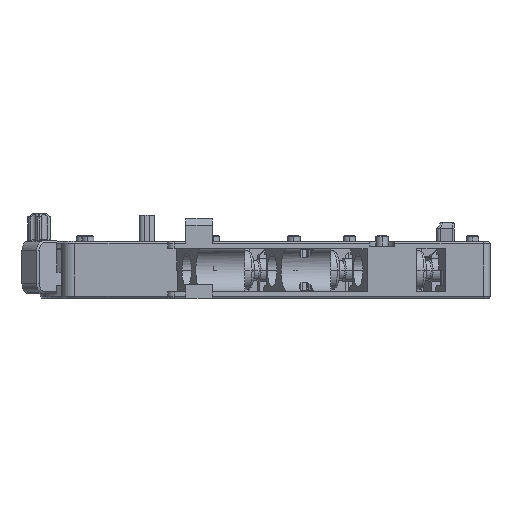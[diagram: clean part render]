
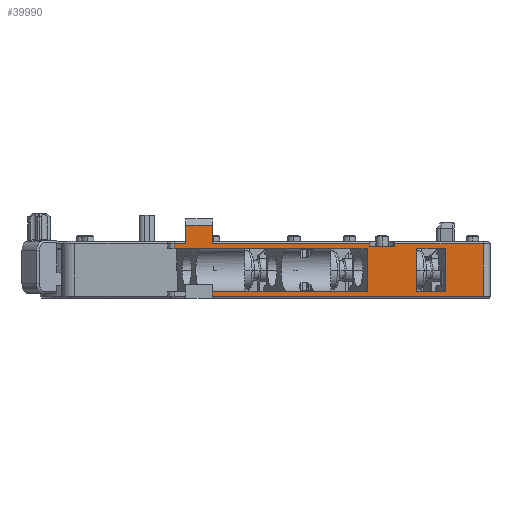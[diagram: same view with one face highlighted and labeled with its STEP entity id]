
A CAD part, left-side view. The second image highlights one B-rep face of the part: STEP entity #39990.
In plain terms, the highlighted planar face has unit normal (-1, 0, 0).
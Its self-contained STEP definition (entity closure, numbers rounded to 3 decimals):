
#649=DIRECTION('',(0.,0.,1.));
#650=VECTOR('',#649,8.05);
#651=CARTESIAN_POINT('',(-48.,-50.5,-4.));
#652=LINE('',#651,#650);
#667=DIRECTION('',(0.,0.,-1.));
#668=VECTOR('',#667,0.75);
#669=CARTESIAN_POINT('',(-48.,-3.2,4.05));
#670=LINE('',#669,#668);
#671=DIRECTION('',(0.,-1.,0.));
#672=VECTOR('',#671,1.81);
#673=CARTESIAN_POINT('',(-48.,-3.2,4.05));
#674=LINE('',#673,#672);
#675=DIRECTION('',(0.,1.,0.));
#676=VECTOR('',#675,4.);
#677=CARTESIAN_POINT('',(-48.,-9.01,6.85));
#678=LINE('',#677,#676);
#679=DIRECTION('',(0.,0.,1.));
#680=VECTOR('',#679,0.4);
#681=CARTESIAN_POINT('',(-48.,-33.1,3.65));
#682=LINE('',#681,#680);
#683=DIRECTION('',(0.,1.,0.));
#684=VECTOR('',#683,3.8);
#685=CARTESIAN_POINT('',(-48.,-36.9,3.65));
#686=LINE('',#685,#684);
#687=DIRECTION('',(0.,0.,1.));
#688=VECTOR('',#687,0.4);
#689=CARTESIAN_POINT('',(-48.,-36.9,3.65));
#690=LINE('',#689,#688);
#691=DIRECTION('',(0.,1.,0.));
#692=VECTOR('',#691,41.478);
#693=CARTESIAN_POINT('',(-48.,-50.5,-4.));
#694=LINE('',#693,#692);
#695=DIRECTION('',(0.,0.,1.));
#696=VECTOR('',#695,0.7);
#697=CARTESIAN_POINT('',(-48.,-9.023,-4.));
#698=LINE('',#697,#696);
#699=DIRECTION('',(0.,1.,0.));
#700=VECTOR('',#699,4.344);
#701=CARTESIAN_POINT('',(-48.,-44.661,-3.3));
#702=LINE('',#701,#700);
#715=DIRECTION('',(0.,0.,-1.));
#716=VECTOR('',#715,6.6);
#717=CARTESIAN_POINT('',(-48.,-32.697,3.3));
#718=LINE('',#717,#716);
#1701=DIRECTION('',(0.,1.,0.));
#1702=VECTOR('',#1701,29.497);
#1703=CARTESIAN_POINT('',(-48.,-32.697,3.3));
#1704=LINE('',#1703,#1702);
#6605=DIRECTION('',(0.,1.,0.));
#6606=VECTOR('',#6605,13.6);
#6607=CARTESIAN_POINT('',(-48.,-50.5,4.05));
#6608=LINE('',#6607,#6606);
#6622=DIRECTION('',(0.,1.,0.));
#6623=VECTOR('',#6622,24.09);
#6624=CARTESIAN_POINT('',(-48.,-33.1,4.05));
#6625=LINE('',#6624,#6623);
#6631=DIRECTION('',(0.,0.,1.));
#6632=VECTOR('',#6631,2.8);
#6633=CARTESIAN_POINT('',(-48.,-9.01,4.05));
#6634=LINE('',#6633,#6632);
#6659=DIRECTION('',(0.,0.,-1.));
#6660=VECTOR('',#6659,2.8);
#6661=CARTESIAN_POINT('',(-48.,-5.01,6.85));
#6662=LINE('',#6661,#6660);
#7798=DIRECTION('',(0.,1.,0.));
#7799=VECTOR('',#7798,23.675);
#7800=CARTESIAN_POINT('',(-48.,-32.697,-3.3));
#7801=LINE('',#7800,#7799);
#23004=DIRECTION('',(0.,0.,-1.));
#23005=VECTOR('',#23004,6.6);
#23006=CARTESIAN_POINT('',(-48.,-44.661,3.3));
#23007=LINE('',#23006,#23005);
#24710=DIRECTION('',(0.,0.,1.));
#24711=VECTOR('',#24710,6.6);
#24712=CARTESIAN_POINT('',(-48.,-40.317,-3.3));
#24713=LINE('',#24712,#24711);
#24722=DIRECTION('',(0.,1.,0.));
#24723=VECTOR('',#24722,4.344);
#24724=CARTESIAN_POINT('',(-48.,-44.661,3.3));
#24725=LINE('',#24724,#24723);
#31346=CARTESIAN_POINT('',(-48.,-44.661,-3.3));
#31347=CARTESIAN_POINT('',(-48.,-40.317,-3.3));
#31348=VERTEX_POINT('',#31346);
#31349=VERTEX_POINT('',#31347);
#31376=CARTESIAN_POINT('',(-48.,-32.697,-3.3));
#31377=CARTESIAN_POINT('',(-48.,-9.023,-3.3));
#31378=VERTEX_POINT('',#31376);
#31379=VERTEX_POINT('',#31377);
#32296=CARTESIAN_POINT('',(-48.,-9.023,-4.));
#32298=VERTEX_POINT('',#32296);
#32299=CARTESIAN_POINT('',(-48.,-50.5,-4.));
#32300=VERTEX_POINT('',#32299);
#35951=CARTESIAN_POINT('',(-48.,-32.697,3.3));
#35952=VERTEX_POINT('',#35951);
#36043=CARTESIAN_POINT('',(-48.,-44.661,3.3));
#36044=CARTESIAN_POINT('',(-48.,-40.317,3.3));
#36045=VERTEX_POINT('',#36043);
#36046=VERTEX_POINT('',#36044);
#36123=CARTESIAN_POINT('',(-48.,-5.01,6.85));
#36125=VERTEX_POINT('',#36123);
#36129=CARTESIAN_POINT('',(-48.,-9.01,6.85));
#36130=VERTEX_POINT('',#36129);
#36725=CARTESIAN_POINT('',(-48.,-9.01,4.05));
#36727=VERTEX_POINT('',#36725);
#36736=CARTESIAN_POINT('',(-48.,-5.01,4.05));
#36737=VERTEX_POINT('',#36736);
#37222=CARTESIAN_POINT('',(-48.,-3.2,3.3));
#37224=VERTEX_POINT('',#37222);
#37240=CARTESIAN_POINT('',(-48.,-50.5,4.05));
#37241=VERTEX_POINT('',#37240);
#37245=CARTESIAN_POINT('',(-48.,-3.2,4.05));
#37247=VERTEX_POINT('',#37245);
#38111=CARTESIAN_POINT('',(-48.,-36.9,3.65));
#38112=CARTESIAN_POINT('',(-48.,-33.1,3.65));
#38113=VERTEX_POINT('',#38111);
#38114=VERTEX_POINT('',#38112);
#38115=CARTESIAN_POINT('',(-48.,-33.1,4.05));
#38116=VERTEX_POINT('',#38115);
#38117=CARTESIAN_POINT('',(-48.,-36.9,4.05));
#38118=VERTEX_POINT('',#38117);
#39942=CARTESIAN_POINT('',(-48.,14.,-4.3));
#39943=DIRECTION('',(-1.,0.,0.));
#39944=DIRECTION('',(0.,-1.,0.));
#39945=AXIS2_PLACEMENT_3D('',#39942,#39943,#39944);
#39946=PLANE('',#39945);
#39948=ORIENTED_EDGE('',*,*,#39947,.F.);
#39950=ORIENTED_EDGE('',*,*,#39949,.T.);
#39952=ORIENTED_EDGE('',*,*,#39951,.F.);
#39954=ORIENTED_EDGE('',*,*,#39953,.T.);
#39956=ORIENTED_EDGE('',*,*,#39955,.F.);
#39958=ORIENTED_EDGE('',*,*,#39957,.F.);
#39960=ORIENTED_EDGE('',*,*,#39959,.F.);
#39962=ORIENTED_EDGE('',*,*,#39961,.F.);
#39964=ORIENTED_EDGE('',*,*,#39963,.F.);
#39966=ORIENTED_EDGE('',*,*,#39965,.F.);
#39968=ORIENTED_EDGE('',*,*,#39967,.T.);
#39970=ORIENTED_EDGE('',*,*,#39969,.F.);
#39971=ORIENTED_EDGE('',*,*,#39932,.F.);
#39973=ORIENTED_EDGE('',*,*,#39972,.T.);
#39975=ORIENTED_EDGE('',*,*,#39974,.T.);
#39977=ORIENTED_EDGE('',*,*,#39976,.F.);
#39978=EDGE_LOOP('',(#39948,#39950,#39952,#39954,#39956,#39958,#39960,#39962,
#39964,#39966,#39968,#39970,#39971,#39973,#39975,#39977));
#39979=FACE_OUTER_BOUND('',#39978,.F.);
#39981=ORIENTED_EDGE('',*,*,#39980,.F.);
#39983=ORIENTED_EDGE('',*,*,#39982,.T.);
#39985=ORIENTED_EDGE('',*,*,#39984,.F.);
#39987=ORIENTED_EDGE('',*,*,#39986,.F.);
#39988=EDGE_LOOP('',(#39981,#39983,#39985,#39987));
#39989=FACE_BOUND('',#39988,.F.);
#39990=ADVANCED_FACE('',(#39979,#39989),#39946,.T.);
#39932=EDGE_CURVE('',#32300,#37241,#652,.T.);
#39947=EDGE_CURVE('',#35952,#31378,#718,.T.);
#39949=EDGE_CURVE('',#35952,#37224,#1704,.T.);
#39951=EDGE_CURVE('',#37247,#37224,#670,.T.);
#39953=EDGE_CURVE('',#37247,#36737,#674,.T.);
#39955=EDGE_CURVE('',#36125,#36737,#6662,.T.);
#39957=EDGE_CURVE('',#36130,#36125,#678,.T.);
#39959=EDGE_CURVE('',#36727,#36130,#6634,.T.);
#39961=EDGE_CURVE('',#38116,#36727,#6625,.T.);
#39963=EDGE_CURVE('',#38114,#38116,#682,.T.);
#39965=EDGE_CURVE('',#38113,#38114,#686,.T.);
#39967=EDGE_CURVE('',#38113,#38118,#690,.T.);
#39969=EDGE_CURVE('',#37241,#38118,#6608,.T.);
#39972=EDGE_CURVE('',#32300,#32298,#694,.T.);
#39974=EDGE_CURVE('',#32298,#31379,#698,.T.);
#39976=EDGE_CURVE('',#31378,#31379,#7801,.T.);
#39980=EDGE_CURVE('',#36045,#31348,#23007,.T.);
#39982=EDGE_CURVE('',#36045,#36046,#24725,.T.);
#39984=EDGE_CURVE('',#31349,#36046,#24713,.T.);
#39986=EDGE_CURVE('',#31348,#31349,#702,.T.);
